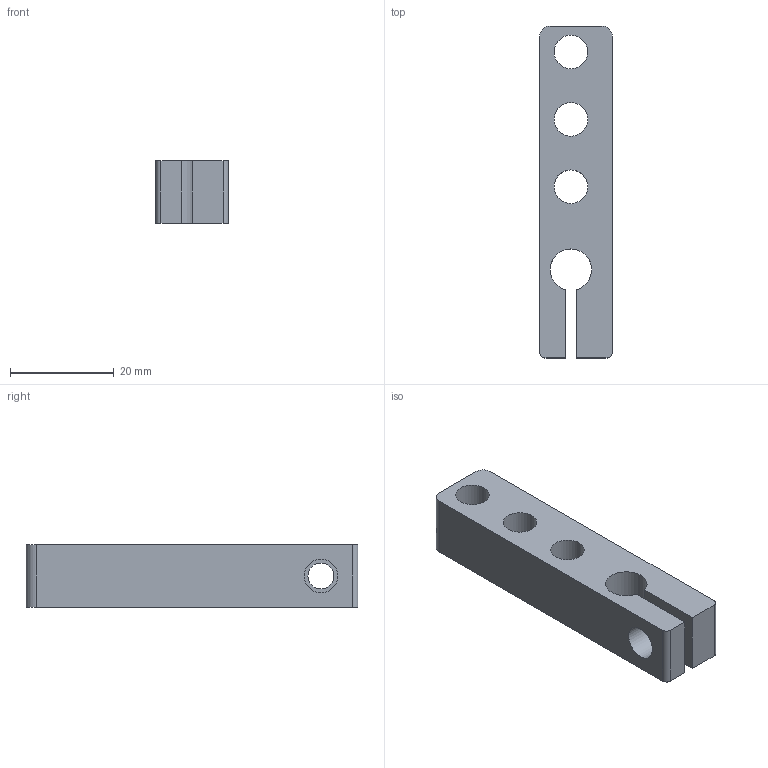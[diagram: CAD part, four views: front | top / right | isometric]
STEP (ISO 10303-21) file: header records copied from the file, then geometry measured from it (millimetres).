
FILE_DESCRIPTION(/* description */ (''),/* implementation_level */ '2;1');
FILE_NAME(/* name */ 'G:\My Drive\00 Халтуры\04_Барабан\Кривошип_Д16Т_1шт.stp',/* time_stamp */ '2025-10-20T13:33:50+02:00',/* author */ ('GeorgyZenker'),/* organization */ (''),/* preprocessor_version */ 'ST-DEVELOPER v18.1',/* originating_system */ 'Autodesk Inventor 2022',/* authorisation */ '');
FILE_SCHEMA (('AUTOMOTIVE_DESIGN { 1 0 10303 214 3 1 1 }'));
Length unit declared in the file: millimetre
Products named in the file (1): Кривошип
Bounding box: 13.97 x 64.01 x 12 mm (x, y, z)
Volume: 8279.4 mm3; surface area: 4674 mm2
Topology: 1 solids, 1 shells, 20 faces, 53 edges, 35 vertices
Faces by surface type: cylinder 10, plane 9, cone 1
Full cylindrical faces by diameter (mm): 5 x1, 6.5 x4
Entity records: 702 total; most frequent: DIRECTION 116, CARTESIAN_POINT 110, ORIENTED_EDGE 106, EDGE_CURVE 53, AXIS2_PLACEMENT_3D 42, VERTEX_POINT 35, LINE 32, VECTOR 32
